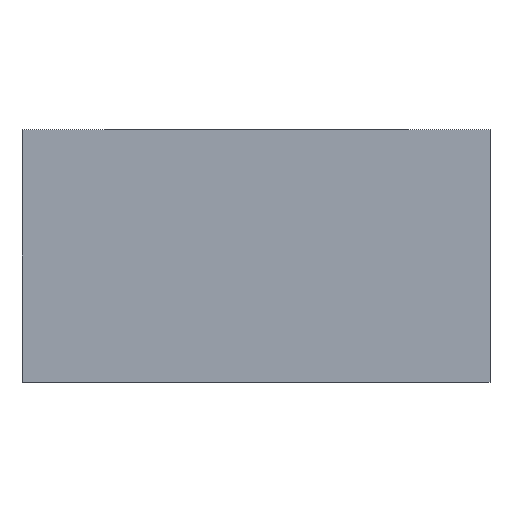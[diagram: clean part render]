
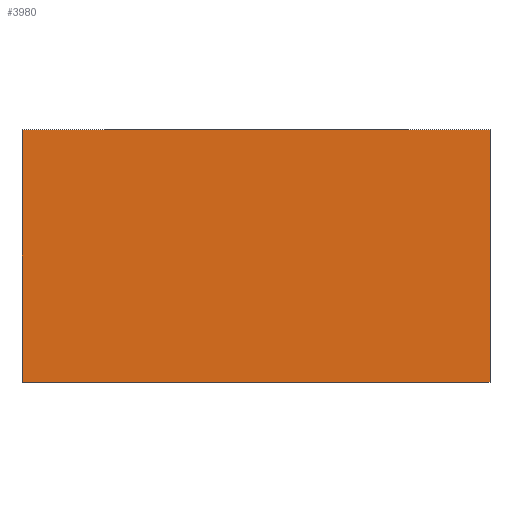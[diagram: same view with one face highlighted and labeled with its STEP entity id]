
A CAD part, front view. The second image highlights one B-rep face of the part: STEP entity #3980.
In plain terms, the highlighted planar face has unit normal (0, -1, 0).
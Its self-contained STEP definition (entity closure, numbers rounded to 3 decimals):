
#181 = LINE ( 'NONE', #1482, #710 ) ;
#710 = VECTOR ( 'NONE', #13240, 1000. ) ;
#791 = VERTEX_POINT ( 'NONE', #21404 ) ;
#1271 = ORIENTED_EDGE ( 'NONE', *, *, #9568, .T. ) ;
#1465 = FACE_OUTER_BOUND ( 'NONE', #8148, .T. ) ;
#1482 = CARTESIAN_POINT ( 'NONE',  ( -3.7, -7., 0. ) ) ;
#1760 = CARTESIAN_POINT ( 'NONE',  ( -3.7, -7., 0. ) ) ;
#2277 = DIRECTION ( 'NONE',  ( 1., 0., 0. ) ) ;
#3774 = AXIS2_PLACEMENT_3D ( 'NONE', #19457, #19532, #9484 ) ;
#3777 = EDGE_CURVE ( 'NONE', #6530, #14491, #5666, .T. ) ;
#3980 = ADVANCED_FACE ( 'NONE', ( #1465 ), #17852, .T. ) ;
#5666 = LINE ( 'NONE', #10662, #18036 ) ;
#6502 = LINE ( 'NONE', #1760, #19375 ) ;
#6530 = VERTEX_POINT ( 'NONE', #17076 ) ;
#6730 = CARTESIAN_POINT ( 'NONE',  ( 3.7, -7., 4. ) ) ;
#7462 = ORIENTED_EDGE ( 'NONE', *, *, #9701, .T. ) ;
#8148 = EDGE_LOOP ( 'NONE', ( #7462, #18579, #17383, #1271 ) ) ;
#8442 = DIRECTION ( 'NONE',  ( 1., 0., 0. ) ) ;
#9484 = DIRECTION ( 'NONE',  ( 0., 0., -1. ) ) ;
#9568 = EDGE_CURVE ( 'NONE', #6530, #791, #181, .T. ) ;
#9701 = EDGE_CURVE ( 'NONE', #791, #21439, #6502, .T. ) ;
#9886 = DIRECTION ( 'NONE',  ( 0., 0., -1. ) ) ;
#10662 = CARTESIAN_POINT ( 'NONE',  ( -3.7, -7., 4. ) ) ;
#13240 = DIRECTION ( 'NONE',  ( 0., 0., -1. ) ) ;
#14491 = VERTEX_POINT ( 'NONE', #6730 ) ;
#14554 = CARTESIAN_POINT ( 'NONE',  ( 3.7, -7., 0. ) ) ;
#16824 = LINE ( 'NONE', #21624, #20775 ) ;
#17076 = CARTESIAN_POINT ( 'NONE',  ( -3.7, -7., 4. ) ) ;
#17383 = ORIENTED_EDGE ( 'NONE', *, *, #3777, .F. ) ;
#17852 = PLANE ( 'NONE',  #3774 ) ;
#18036 = VECTOR ( 'NONE', #2277, 1000. ) ;
#18579 = ORIENTED_EDGE ( 'NONE', *, *, #20933, .F. ) ;
#19375 = VECTOR ( 'NONE', #8442, 1000. ) ;
#19457 = CARTESIAN_POINT ( 'NONE',  ( -3.7, -7., 0. ) ) ;
#19532 = DIRECTION ( 'NONE',  ( 0., -1., 0. ) ) ;
#20775 = VECTOR ( 'NONE', #9886, 1000. ) ;
#20933 = EDGE_CURVE ( 'NONE', #14491, #21439, #16824, .T. ) ;
#21404 = CARTESIAN_POINT ( 'NONE',  ( -3.7, -7., 0. ) ) ;
#21439 = VERTEX_POINT ( 'NONE', #14554 ) ;
#21624 = CARTESIAN_POINT ( 'NONE',  ( 3.7, -7., 0. ) ) ;
